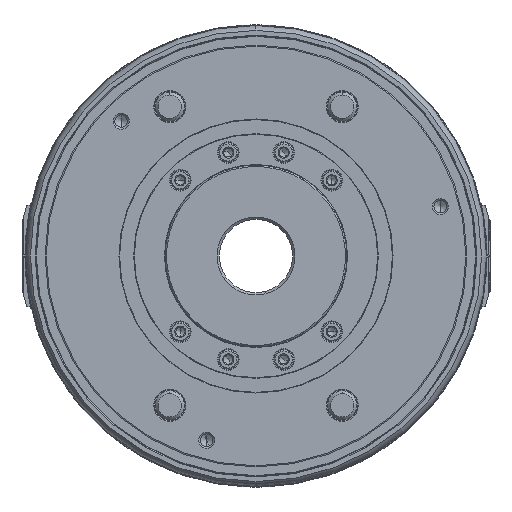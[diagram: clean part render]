
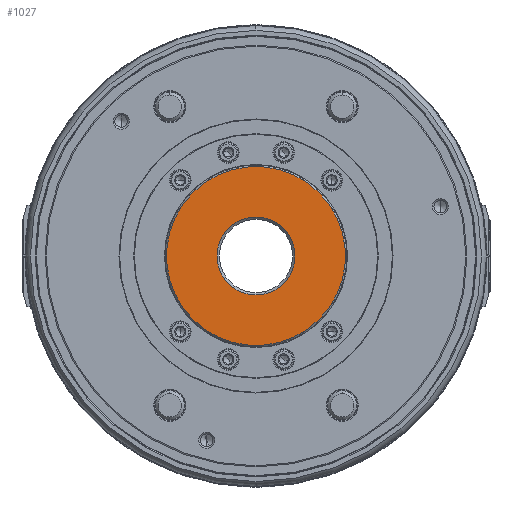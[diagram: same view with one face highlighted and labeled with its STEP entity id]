
A CAD part, left-side view. The second image highlights one B-rep face of the part: STEP entity #1027.
In plain terms, the highlighted planar face has unit normal (-1, 0, 0).
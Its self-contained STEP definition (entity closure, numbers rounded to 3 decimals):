
#1027 = ADVANCED_FACE ( 'NONE', ( #21319, #52028 ), #37397, .T. ) ;
#1444 = CIRCLE ( 'NONE', #46414, 61. ) ;
#3725 = AXIS2_PLACEMENT_3D ( 'NONE', #74573, #5594, #77036 ) ;
#5395 = CARTESIAN_POINT ( 'NONE',  ( -94., 0., 0. ) ) ;
#5594 = DIRECTION ( 'NONE',  ( 1., 0., 0. ) ) ;
#8400 = CARTESIAN_POINT ( 'NONE',  ( -94., 0., 0. ) ) ;
#9353 = AXIS2_PLACEMENT_3D ( 'NONE', #5395, #27512, #50188 ) ;
#21319 = FACE_BOUND ( 'NONE', #69488, .T. ) ;
#22309 = DIRECTION ( 'NONE',  ( -1., 0., 0. ) ) ;
#25935 = CARTESIAN_POINT ( 'NONE',  ( -94., 0., 0. ) ) ;
#26981 = ORIENTED_EDGE ( 'NONE', *, *, #37212, .F. ) ;
#27512 = DIRECTION ( 'NONE',  ( 1., 0., 0. ) ) ;
#29277 = CARTESIAN_POINT ( 'NONE',  ( -94., -6.885, -25.694 ) ) ;
#31060 = CIRCLE ( 'NONE', #3725, 26.6 ) ;
#32116 = CARTESIAN_POINT ( 'NONE',  ( -94., -15.788, -58.921 ) ) ;
#36511 = EDGE_LOOP ( 'NONE', ( #42517, #26981 ) ) ;
#36841 = VERTEX_POINT ( 'NONE', #32116 ) ;
#37212 = EDGE_CURVE ( 'NONE', #69738, #36841, #1444, .T. ) ;
#37397 = PLANE ( 'NONE',  #89082 ) ;
#39852 = VERTEX_POINT ( 'NONE', #90253 ) ;
#42517 = ORIENTED_EDGE ( 'NONE', *, *, #53743, .F. ) ;
#46414 = AXIS2_PLACEMENT_3D ( 'NONE', #25935, #78334, #71291 ) ;
#47634 = DIRECTION ( 'NONE',  ( 1., 0., 0. ) ) ;
#50188 = DIRECTION ( 'NONE',  ( 0., -0.259, -0.966 ) ) ;
#52028 = FACE_OUTER_BOUND ( 'NONE', #36511, .T. ) ;
#53743 = EDGE_CURVE ( 'NONE', #36841, #69738, #78478, .T. ) ;
#63603 = CIRCLE ( 'NONE', #70091, 26.6 ) ;
#69488 = EDGE_LOOP ( 'NONE', ( #77643, #98990 ) ) ;
#69738 = VERTEX_POINT ( 'NONE', #96539 ) ;
#70091 = AXIS2_PLACEMENT_3D ( 'NONE', #8400, #47634, #92489 ) ;
#71291 = DIRECTION ( 'NONE',  ( 0., -0.259, -0.966 ) ) ;
#71617 = EDGE_CURVE ( 'NONE', #95465, #39852, #31060, .T. ) ;
#74573 = CARTESIAN_POINT ( 'NONE',  ( -94., 0., 0. ) ) ;
#77036 = DIRECTION ( 'NONE',  ( 0., -0.259, -0.966 ) ) ;
#77643 = ORIENTED_EDGE ( 'NONE', *, *, #84134, .T. ) ;
#78334 = DIRECTION ( 'NONE',  ( 1., 0., 0. ) ) ;
#78478 = CIRCLE ( 'NONE', #9353, 61. ) ;
#84134 = EDGE_CURVE ( 'NONE', #39852, #95465, #63603, .T. ) ;
#89082 = AXIS2_PLACEMENT_3D ( 'NONE', #91303, #22309, #98343 ) ;
#90253 = CARTESIAN_POINT ( 'NONE',  ( -94., 6.885, 25.694 ) ) ;
#91303 = CARTESIAN_POINT ( 'NONE',  ( -94., 25.694, -6.885 ) ) ;
#92489 = DIRECTION ( 'NONE',  ( 0., -0.259, -0.966 ) ) ;
#95465 = VERTEX_POINT ( 'NONE', #29277 ) ;
#96539 = CARTESIAN_POINT ( 'NONE',  ( -94., 15.788, 58.921 ) ) ;
#98343 = DIRECTION ( 'NONE',  ( 0., 0.259, 0.966 ) ) ;
#98990 = ORIENTED_EDGE ( 'NONE', *, *, #71617, .T. ) ;
